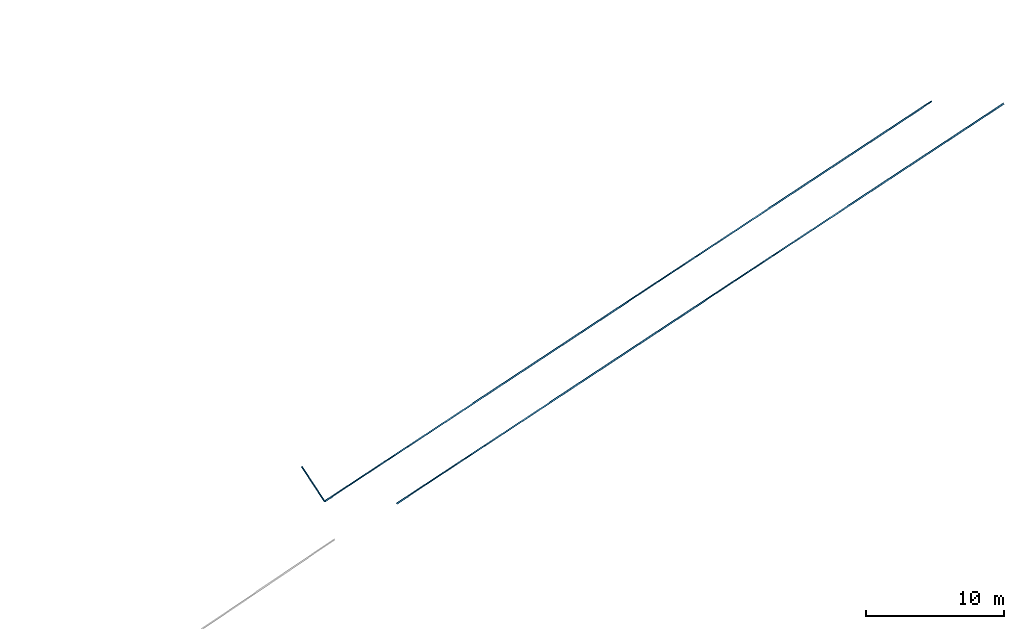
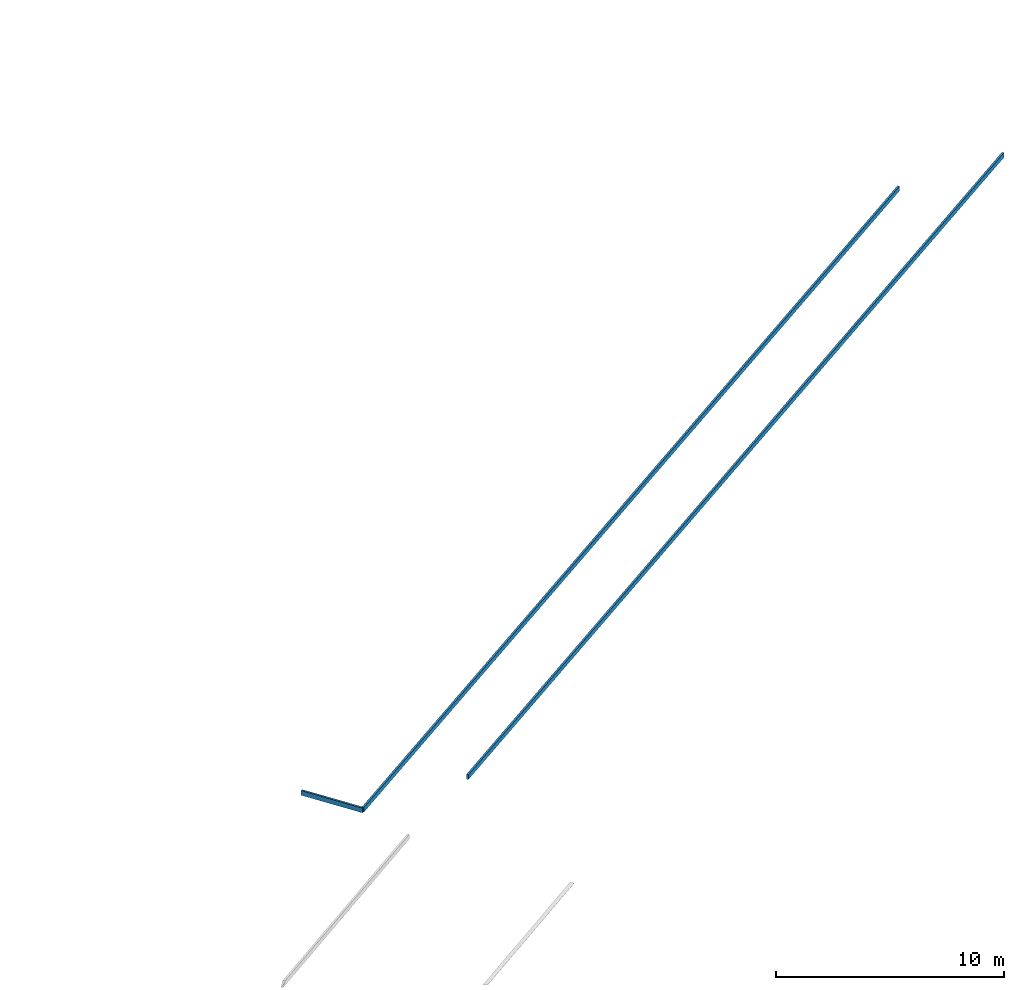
# One storey, part 3 of 24: 3 beams.
"""IFC2X3 building model written with IfcOpenShell, lengths in millimetres."""

import ifcopenshell
import ifcopenshell.guid

model = None  # the IFC model being written
_history = None  # IfcOwnerHistory: only IFC2X3 demands one
_inside = {}  # id of a spatial element -> (the spatial element, [elements in it])
_under = {}  # id of a project, library or spatial element -> (it, [spatial elements below it])
_declared = {}  # id of a project -> (the project, [libraries it declares])
_typed = {}  # id of a type object -> (the type object, [elements of that type])
_made_of = {}  # id of a material, layer set ... -> (it, [elements and type objects made of it])


def new_model(schema):
    """Start an empty IFC model of exactly this schema.

    Asked for "IFC4X3", IfcOpenShell would pick the latest addendum, in which some entities
    have other attributes; the version numbers below select the first issue.
    IFC2X3 requires an IfcOwnerHistory on every rooted entity: one is made here for all.
    """
    global model, _history
    if schema == "IFC4X3":
        model = ifcopenshell.file(schema_version=(4, 3, 0, 0))
    else:
        model = ifcopenshell.file(schema=schema)
    _inside.clear()
    _under.clear()
    _declared.clear()
    _typed.clear()
    _made_of.clear()
    _history = None
    if model.schema == "IFC2X3":
        org = make("IfcOrganization", Name="unknown")
        user = make(
            "IfcPersonAndOrganization",
            ThePerson=make("IfcPerson", FamilyName="unknown"),
            TheOrganization=org,
        )
        app = make(
            "IfcApplication",
            ApplicationDeveloper=org,
            Version="unknown",
            ApplicationFullName="unknown",
            ApplicationIdentifier="unknown",
        )
        _history = make(
            "IfcOwnerHistory",
            OwningUser=user,
            OwningApplication=app,
            ChangeAction="ADDED",
            CreationDate=0,
        )
    return model


def make(cls, **values):
    """One entity of the class cls with the attributes given. An attribute that is None is left unset."""
    return model.create_entity(
        cls, **{name: value for name, value in values.items() if value is not None}
    )


def entity(cls, *values):
    """Any entity or typed value of the class cls, its attributes in the order of the schema. None: left unset."""
    e = model.create_entity(cls)
    for i, value in enumerate(values):
        if value is not None:
            e[i] = value
    return e


def rooted(cls, **values):
    """An entity with a GlobalId (a new one), such as an element, a storey or a relation."""
    return make(cls, GlobalId=ifcopenshell.guid.new(), OwnerHistory=_history, **values)


def si_unit(unit_type, name, prefix=None):
    """IfcSIUnit, for example si_unit("LENGTHUNIT", "METRE", prefix="MILLI")."""
    return make("IfcSIUnit", UnitType=unit_type, Prefix=prefix, Name=name)


def converted_unit(unit_type, name, factor, base, dimensions=None, offset=None):
    """IfcConversionBasedUnit, such as the inch: factor (a typed value) times the base unit."""
    return make(
        "IfcConversionBasedUnit"
        if offset is None
        else "IfcConversionBasedUnitWithOffset",
        ConversionOffset=offset,
        Dimensions=None
        if dimensions is None
        else entity("IfcDimensionalExponents", *dimensions),
        UnitType=unit_type,
        Name=name,
        ConversionFactor=make(
            "IfcMeasureWithUnit", ValueComponent=factor, UnitComponent=base
        ),
    )


def derived_unit(unit_type, elements):
    """IfcDerivedUnit: a product of units, each with its exponent."""
    return make(
        "IfcDerivedUnit",
        Elements=[
            make("IfcDerivedUnitElement", Unit=unit, Exponent=power)
            for unit, power in elements
        ],
        UnitType=unit_type,
    )


def assignment(units):
    """IfcUnitAssignment: the units of a project."""
    return None if units is None else make("IfcUnitAssignment", Units=units)


def point(xyz):
    """IfcCartesianPoint."""
    return None if xyz is None else make("IfcCartesianPoint", Coordinates=xyz)


def direction(xyz):
    """IfcDirection."""
    return None if xyz is None else make("IfcDirection", DirectionRatios=xyz)


def frame(location, z_axis=None, x_axis=None):
    """IfcAxis2Placement3D, a coordinate frame: its origin and axes. An axis left out is left unset."""
    return make(
        "IfcAxis2Placement3D",
        Location=point(location),
        Axis=direction(z_axis),
        RefDirection=direction(x_axis),
    )


def frame_2d(location, x_axis=None):
    """IfcAxis2Placement2D, a coordinate frame in the plane: its origin and x axis."""
    return make(
        "IfcAxis2Placement2D", Location=point(location), RefDirection=direction(x_axis)
    )


def origin():
    """The frame at (0, 0, 0) with its axes left unset."""
    return frame((0.0, 0.0, 0.0))


def place(relative_to, where):
    """IfcLocalPlacement: puts the frame where relative to a parent placement (None: the world)."""
    return make(
        "IfcLocalPlacement", PlacementRelTo=relative_to, RelativePlacement=where
    )


def context(
    kind, dimensions, precision=None, world=None, true_north=None, identifier=None
):
    """IfcGeometricRepresentationContext, for example the 3D "Model" context."""
    return make(
        "IfcGeometricRepresentationContext",
        ContextIdentifier=identifier,
        ContextType=kind,
        CoordinateSpaceDimension=dimensions,
        Precision=precision,
        WorldCoordinateSystem=world,
        TrueNorth=true_north,
    )


def subcontext(parent, identifier, kind, view, scale=None):
    """IfcGeometricRepresentationSubContext, for example "Body" below "Model"."""
    return make(
        "IfcGeometricRepresentationSubContext",
        ContextIdentifier=identifier,
        ContextType=kind,
        ParentContext=parent,
        TargetScale=scale,
        TargetView=view,
    )


def project(units=None, contexts=None):
    """IfcProject with its units and contexts."""
    return rooted(
        "IfcProject",
        Name="project",
        RepresentationContexts=contexts,
        UnitsInContext=assignment(units),
    )


def spatial(cls, under=None, at=None, **own):
    """A site, building, storey or space (cls), placed at a placement, below another one or the project."""
    s = rooted(cls, ObjectPlacement=at, **own)
    if under is not None:
        _under.setdefault(under.id(), (under, []))[1].append(s)
    return s


def polyline(points):
    """IfcPolyline through the points."""
    return make("IfcPolyline", Points=[point(p) for p in points])


def profile(cls, at=None, kind="AREA", **sizes):
    """A parametric profile (cls). Its sizes go by their IFC names, for example OverallWidth=200.0."""
    return make(cls, ProfileType=kind, Position=at, **sizes)


def rectangle(**sizes):
    """IfcRectangleProfileDef."""
    return profile("IfcRectangleProfileDef", **sizes)


def outline(outer, holes=None, kind="AREA"):
    """IfcArbitraryClosedProfileDef: a profile drawn as a closed curve; with holes, ...WithVoids."""
    if holes is None:
        return make("IfcArbitraryClosedProfileDef", ProfileType=kind, OuterCurve=outer)
    return make(
        "IfcArbitraryProfileDefWithVoids",
        ProfileType=kind,
        OuterCurve=outer,
        InnerCurves=holes,
    )


def extrude(swept, where, along, depth):
    """IfcExtrudedAreaSolid: the profile swept, set in the frame where, extruded along a direction by depth."""
    return make(
        "IfcExtrudedAreaSolid",
        SweptArea=swept,
        Position=where,
        ExtrudedDirection=direction(along),
        Depth=depth,
    )


def shape(context_of_items, identifier, shape_type, items):
    """IfcShapeRepresentation: the items that make up one representation, for example the "Body"."""
    return make(
        "IfcShapeRepresentation",
        ContextOfItems=context_of_items,
        RepresentationIdentifier=identifier,
        RepresentationType=shape_type,
        Items=items,
    )


def material(Name=None, Category=None):
    """IfcMaterial."""
    return make("IfcMaterial", Name=Name, Category=Category)


def made_of(thing, what):
    """Note that an element or type object is made of a material, layer set ...; save() writes the relation."""
    if what is not None:
        _made_of.setdefault(what.id(), (what, []))[1].append(thing)
    return thing


def type_object(cls, material=None, **own):
    """A type object (cls), such as IfcWallType, which elements share."""
    return made_of(rooted(cls, **own), material)


def element(
    cls,
    number,
    at=None,
    inside=None,
    cuts=None,
    type_object=None,
    material=None,
    context=None,
    identifier="Body",
    shape_type=None,
    held_by="IfcProductDefinitionShape",
    body=None,
    shapes=None,
    **own,
):
    """One element of the class cls, such as IfcWall. Its Tag is "e" and its number.

    at: its placement. inside: the storey or other place that contains it. cuts: it is an
    opening in that element (IfcRelVoidsElement). A single representation is given by context,
    identifier, shape_type and body (its items); several are given by shapes. held_by: the class
    of the entity that holds the representations. save() writes the other relations.
    """
    e = rooted(cls, Tag="e%d" % number, ObjectPlacement=at, **own)
    if body is not None:
        shapes = [shape(context, identifier, shape_type, body)]
    if shapes is not None:
        e.Representation = make(held_by, Representations=shapes)
    if inside is not None:
        _inside.setdefault(inside.id(), (inside, []))[1].append(e)
    if cuts is not None:
        rooted(
            "IfcRelVoidsElement", RelatingBuildingElement=cuts, RelatedOpeningElement=e
        )
    if type_object is not None:
        _typed.setdefault(type_object.id(), (type_object, []))[1].append(e)
    return made_of(e, material)


def aggregate(whole, parts):
    """IfcRelAggregates: a whole, such as a stair, and the parts it consists of."""
    return rooted("IfcRelAggregates", RelatingObject=whole, RelatedObjects=parts)


def save(model, path):
    """Write the relations noted so far, then the file.

    IfcRelAggregates (storeys below a building ...), IfcRelContainedInSpatialStructure (elements
    in a storey), IfcRelDefinesByType, IfcRelAssociatesMaterial and IfcRelDeclares: one each for
    every whole, place, type object, material and project.
    """
    for whole, parts in _under.values():
        aggregate(whole, parts)
    for where, things in _inside.values():
        rooted(
            "IfcRelContainedInSpatialStructure",
            RelatedElements=things,
            RelatingStructure=where,
        )
    for kind, things in _typed.values():
        rooted("IfcRelDefinesByType", RelatedObjects=things, RelatingType=kind)
    for what, things in _made_of.values():
        rooted("IfcRelAssociatesMaterial", RelatedObjects=things, RelatingMaterial=what)
    for by, libraries in _declared.values():
        rooted("IfcRelDeclares", RelatingContext=by, RelatedDefinitions=libraries)
    model.write(path)


model = new_model("IFC2X3")

# Units and contexts
model_context = context("Model", 3, precision=0.01, world=origin(), true_north=direction((6.123031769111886e-17, 1.0)))
body_context = subcontext(model_context, "Body", "Model", "MODEL_VIEW")
ifc_project = project(units=[si_unit("LENGTHUNIT", "METRE", prefix="MILLI"), si_unit("AREAUNIT", "SQUARE_METRE"), si_unit("VOLUMEUNIT", "CUBIC_METRE"), converted_unit("PLANEANGLEUNIT", "DEGREE", entity("IfcRatioMeasure", 0.017453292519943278), si_unit("PLANEANGLEUNIT", "RADIAN"), dimensions=[0, 0, 0, 0, 0, 0, 0]), si_unit("MASSUNIT", "GRAM", prefix="KILO"), derived_unit("MASSDENSITYUNIT", [(si_unit("MASSUNIT", "GRAM", prefix="KILO"), 1), (si_unit("LENGTHUNIT", "METRE"), -3)]), derived_unit("MOMENTOFINERTIAUNIT", [(si_unit("LENGTHUNIT", "METRE"), 4)]), si_unit("TIMEUNIT", "SECOND"), si_unit("FREQUENCYUNIT", "HERTZ"), si_unit("THERMODYNAMICTEMPERATUREUNIT", "DEGREE_CELSIUS"), derived_unit("THERMALTRANSMITTANCEUNIT", [(si_unit("MASSUNIT", "GRAM", prefix="KILO"), 1), (si_unit("THERMODYNAMICTEMPERATUREUNIT", "KELVIN"), -1), (si_unit("TIMEUNIT", "SECOND"), -3)]), derived_unit("THERMALCONDUCTANCEUNIT", [(si_unit("MASSUNIT", "GRAM", prefix="KILO"), 1), (si_unit("LENGTHUNIT", "METRE"), 1), (si_unit("THERMODYNAMICTEMPERATUREUNIT", "KELVIN"), -1), (si_unit("TIMEUNIT", "SECOND"), -3)]), derived_unit("VOLUMETRICFLOWRATEUNIT", [(si_unit("LENGTHUNIT", "METRE"), 3), (si_unit("TIMEUNIT", "SECOND"), -1)]), derived_unit("MASSFLOWRATEUNIT", [(si_unit("MASSUNIT", "GRAM", prefix="KILO"), 1), (si_unit("TIMEUNIT", "SECOND"), -1)]), derived_unit("ROTATIONALFREQUENCYUNIT", [(si_unit("TIMEUNIT", "SECOND"), -1)]), si_unit("ELECTRICCURRENTUNIT", "AMPERE"), si_unit("ELECTRICVOLTAGEUNIT", "VOLT"), si_unit("POWERUNIT", "WATT"), converted_unit("FORCEUNIT", "KIP", entity("IfcRatioMeasure", 2.088543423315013e-05), si_unit("FORCEUNIT", "NEWTON"), dimensions=[1, 1, -2, 0, 0, 0, 0]), si_unit("ILLUMINANCEUNIT", "LUX"), si_unit("LUMINOUSFLUXUNIT", "LUMEN"), si_unit("LUMINOUSINTENSITYUNIT", "CANDELA"), derived_unit("USERDEFINED", [(si_unit("MASSUNIT", "GRAM", prefix="KILO"), -1), (si_unit("LENGTHUNIT", "METRE"), -2), (si_unit("TIMEUNIT", "SECOND"), 3), (si_unit("LUMINOUSFLUXUNIT", "LUMEN"), 1)]), derived_unit("USERDEFINED", [(si_unit("MASSUNIT", "GRAM", prefix="KILO"), 1), (si_unit("LENGTHUNIT", "METRE"), 3), (si_unit("TIMEUNIT", "SECOND"), -3), (si_unit("ELECTRICCURRENTUNIT", "AMPERE"), -2)]), derived_unit("USERDEFINED", [(si_unit("LENGTHUNIT", "METRE"), 2), (si_unit("TIMEUNIT", "SECOND"), -2)]), derived_unit("SOUNDPOWERUNIT", [(si_unit("MASSUNIT", "GRAM", prefix="KILO"), 1), (si_unit("LENGTHUNIT", "METRE"), 2), (si_unit("TIMEUNIT", "SECOND"), -3)]), derived_unit("SOUNDPRESSUREUNIT", [(si_unit("MASSUNIT", "GRAM", prefix="KILO"), 1), (si_unit("LENGTHUNIT", "METRE"), -1), (si_unit("TIMEUNIT", "SECOND"), -2)]), derived_unit("LINEARVELOCITYUNIT", [(si_unit("LENGTHUNIT", "METRE"), 1), (si_unit("TIMEUNIT", "SECOND"), -1)]), si_unit("PRESSUREUNIT", "PASCAL"), derived_unit("USERDEFINED", [(si_unit("LENGTHUNIT", "METRE"), -2), (si_unit("MASSUNIT", "GRAM", prefix="KILO"), 1), (si_unit("TIMEUNIT", "SECOND"), -2)]), derived_unit("LINEARFORCEUNIT", [(si_unit("MASSUNIT", "GRAM", prefix="KILO"), 1), (si_unit("LENGTHUNIT", "METRE"), 1), (si_unit("TIMEUNIT", "SECOND"), -2), (si_unit("LENGTHUNIT", "METRE"), -1)]), derived_unit("PLANARFORCEUNIT", [(si_unit("MASSUNIT", "GRAM", prefix="KILO"), 1), (si_unit("LENGTHUNIT", "METRE"), 1), (si_unit("TIMEUNIT", "SECOND"), -2), (si_unit("LENGTHUNIT", "METRE"), -2)]), derived_unit("SPECIFICHEATCAPACITYUNIT", [(si_unit("LENGTHUNIT", "METRE"), 2), (si_unit("TIMEUNIT", "SECOND"), -2), (si_unit("THERMODYNAMICTEMPERATUREUNIT", "KELVIN"), -1)]), derived_unit("VAPORPERMEABILITYUNIT", [(si_unit("TIMEUNIT", "SECOND"), 1), (si_unit("LENGTHUNIT", "METRE"), -1)]), derived_unit("DYNAMICVISCOSITYUNIT", [(si_unit("MASSUNIT", "GRAM", prefix="KILO"), 1), (si_unit("LENGTHUNIT", "METRE"), -1), (si_unit("TIMEUNIT", "SECOND"), -1)]), derived_unit("THERMALEXPANSIONCOEFFICIENTUNIT", [(si_unit("THERMODYNAMICTEMPERATUREUNIT", "KELVIN"), -1)])], contexts=[model_context])

# Site, building, storey
site_placement = place(None, frame((0.0, 0.0, 0.0), z_axis=(0.0, 0.0, 1.0), x_axis=(0.8191520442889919, 0.5735764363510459, 0.0)))
site = spatial("IfcSite", under=ifc_project, at=site_placement, Name="Default", CompositionType="ELEMENT")
building_placement = place(site_placement, origin())
building = spatial("IfcBuilding", under=site, at=building_placement, CompositionType="ELEMENT")
storey_placement = place(building_placement, frame((0.0, 0.0, -1150.0)))
storey = spatial("IfcBuildingStorey", under=building, at=storey_placement, Name="6.EG KH -1.15", CompositionType="ELEMENT", Elevation=-1150.0000000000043)

# Beams
ifc_material_1 = material(Name="Paveta_bordur")
beam_type_1 = type_object("IfcBeamType", Name="Beam-173 236799:Beam-173 236799", PredefinedType="NOTDEFINED")
beam_1_placement = place(storey_placement, origin())
element("IfcBeam", 1, at=beam_1_placement, inside=storey, type_object=beam_type_1, material=ifc_material_1, Name="Beam-173", ObjectType="Beam-173 236799:Beam-173 236799", context=body_context, shape_type="SweptSolid", body=[
    extrude(rectangle(XDim=250.0, YDim=99.99999999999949, at=frame_2d((4.579447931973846e-12, 1.4210854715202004e-14), x_axis=(0.0, 1.0))), frame((-70569.17667488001, -149647.022732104, 1035.0), z_axis=(0.028074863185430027, 0.9996058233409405, 0.0), x_axis=(0.9996058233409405, -0.028074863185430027, 0.0)), (0.0, 0.0, 1.0), 3006.380915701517),
])
ifc_material_2 = material(Name="Paint-01")
beam_type_2 = type_object("IfcBeamType", Name="Beam-145 236797:Beam-145 236797", PredefinedType="NOTDEFINED")
beam_2_placement = place(storey_placement, origin())
element("IfcBeam", 2, at=beam_2_placement, inside=storey, type_object=beam_type_2, material=ifc_material_2, Name="Beam-145", ObjectType="Beam-145 236797:Beam-145 236797", context=body_context, shape_type="SweptSolid", body=[
    extrude(outline(polyline([(-26249.861447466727, -125.0), (26251.922286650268, -125.0), (26249.861447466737, 125.0), (-26251.922286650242, 125.0), (-26249.861447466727, -125.0)])), frame((-44330.9275553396, -150433.96818188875, 1270.4001493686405), z_axis=(0.02807486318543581, 0.9996058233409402, 0.0), x_axis=(0.9995718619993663, -0.028073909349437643, 0.008243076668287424)), (0.0, 0.0, 1.0), 99.99999999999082),
])
beam_type_3 = type_object("IfcBeamType", Name="Beam-145 236670:Beam-145 236670", PredefinedType="NOTDEFINED")
beam_3_placement = place(storey_placement, origin())
element("IfcBeam", 3, at=beam_3_placement, inside=storey, type_object=beam_type_3, material=ifc_material_2, Name="Beam-145", ObjectType="Beam-145 236670:Beam-145 236670", context=body_context, shape_type="SweptSolid", body=[
    extrude(outline(polyline([(-26250.315188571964, -125.0), (26252.591028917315, -125.0), (26250.315188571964, 125.0), (-26252.591028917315, 125.0), (-26250.315188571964, -125.0)])), frame((-40165.83237771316, -153552.13176645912, 1320.9827750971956), z_axis=(0.028074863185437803, 0.9996058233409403, 0.0), x_axis=(0.999564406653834, -0.028073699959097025, 0.009102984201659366)), (0.0, 0.0, 1.0), 99.99999999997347),
])

save(model, "model.ifc")
